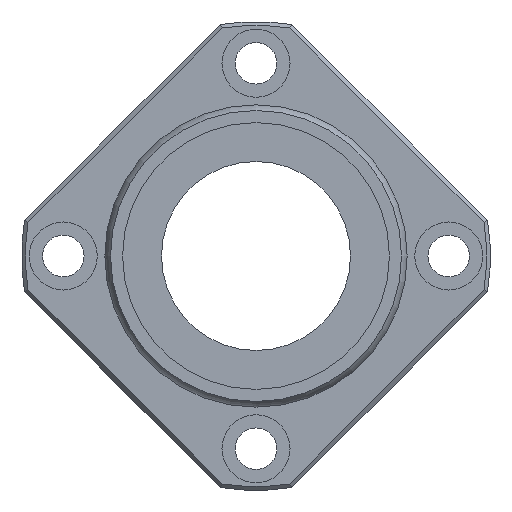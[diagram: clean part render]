
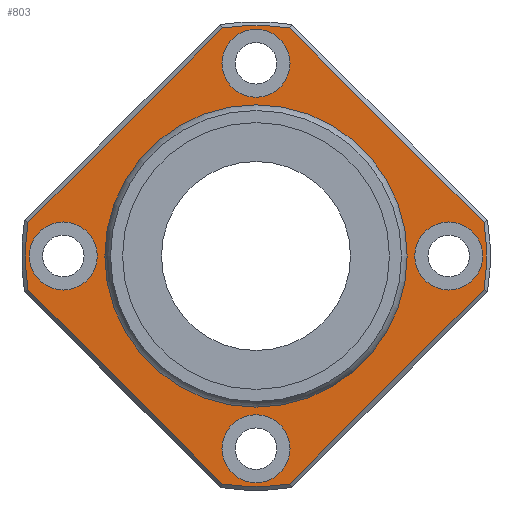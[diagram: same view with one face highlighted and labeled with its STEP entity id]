
A CAD part, left-side view. The second image highlights one B-rep face of the part: STEP entity #803.
In plain terms, the highlighted planar face has unit normal (-1, 0, 0).
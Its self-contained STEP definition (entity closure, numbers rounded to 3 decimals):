
#498=CARTESIAN_POINT('',(57.5,-4.479,-30.169));
#499=VERTEX_POINT('',#498);
#507=CARTESIAN_POINT('',(57.5,4.479,-30.169));
#508=VERTEX_POINT('',#507);
#509=CARTESIAN_POINT('',(57.5,0.0,0.0));
#510=DIRECTION('',(1.0,0.0,0.0));
#511=DIRECTION('',(0.0,0.0,-1.0));
#512=AXIS2_PLACEMENT_3D('',#509,#510,#511);
#513=CIRCLE('',#512,30.5);
#514=EDGE_CURVE('',#499,#508,#513,.T.);
#540=CARTESIAN_POINT('',(57.5,30.169,-4.479));
#541=VERTEX_POINT('',#540);
#542=CARTESIAN_POINT('',(57.5,4.479,-30.169));
#543=DIRECTION('',(0.0,0.707,0.707));
#544=VECTOR('',#543,36.332);
#545=LINE('',#542,#544);
#546=EDGE_CURVE('',#508,#541,#545,.T.);
#573=CARTESIAN_POINT('',(57.5,30.169,4.479));
#574=VERTEX_POINT('',#573);
#575=CARTESIAN_POINT('',(57.5,0.0,0.0));
#576=DIRECTION('',(1.0,0.0,0.0));
#577=DIRECTION('',(0.0,0.0,1.0));
#578=AXIS2_PLACEMENT_3D('',#575,#576,#577);
#579=CIRCLE('',#578,30.5);
#580=EDGE_CURVE('',#541,#574,#579,.T.);
#604=CARTESIAN_POINT('',(57.5,4.479,30.169));
#605=VERTEX_POINT('',#604);
#606=CARTESIAN_POINT('',(57.5,30.169,4.479));
#607=DIRECTION('',(0.0,-0.707,0.707));
#608=VECTOR('',#607,36.332);
#609=LINE('',#606,#608);
#610=EDGE_CURVE('',#574,#605,#609,.T.);
#629=CARTESIAN_POINT('',(57.5,-4.479,30.169));
#630=VERTEX_POINT('',#629);
#631=CARTESIAN_POINT('',(57.5,0.0,0.0));
#632=DIRECTION('',(1.0,0.0,0.0));
#633=DIRECTION('',(0.0,0.0,1.0));
#634=AXIS2_PLACEMENT_3D('',#631,#632,#633);
#635=CIRCLE('',#634,30.5);
#636=EDGE_CURVE('',#605,#630,#635,.T.);
#655=CARTESIAN_POINT('',(57.5,-30.169,4.479));
#656=VERTEX_POINT('',#655);
#657=CARTESIAN_POINT('',(57.5,-4.479,30.169));
#658=DIRECTION('',(0.0,-0.707,-0.707));
#659=VECTOR('',#658,36.332);
#660=LINE('',#657,#659);
#661=EDGE_CURVE('',#630,#656,#660,.T.);
#680=CARTESIAN_POINT('',(57.5,-30.169,-4.479));
#681=VERTEX_POINT('',#680);
#682=CARTESIAN_POINT('',(57.5,0.0,0.0));
#683=DIRECTION('',(1.0,0.0,0.0));
#684=DIRECTION('',(0.0,0.0,1.0));
#685=AXIS2_PLACEMENT_3D('',#682,#683,#684);
#686=CIRCLE('',#685,30.5);
#687=EDGE_CURVE('',#656,#681,#686,.T.);
#706=CARTESIAN_POINT('',(57.5,-30.169,-4.479));
#707=DIRECTION('',(0.0,0.707,-0.707));
#708=VECTOR('',#707,36.332);
#709=LINE('',#706,#708);
#710=EDGE_CURVE('',#681,#499,#709,.T.);
#733=CARTESIAN_POINT('',(57.5,0.0,25.282));
#734=DIRECTION('',(-1.0,0.0,0.0));
#735=DIRECTION('',(0.0,0.0,1.0));
#736=AXIS2_PLACEMENT_3D('',#733,#734,#735);
#737=PLANE('',#736);
#738=ORIENTED_EDGE('',*,*,#514,.F.);
#739=ORIENTED_EDGE('',*,*,#710,.F.);
#740=ORIENTED_EDGE('',*,*,#687,.F.);
#741=ORIENTED_EDGE('',*,*,#661,.F.);
#742=ORIENTED_EDGE('',*,*,#636,.F.);
#743=ORIENTED_EDGE('',*,*,#610,.F.);
#744=ORIENTED_EDGE('',*,*,#580,.F.);
#745=ORIENTED_EDGE('',*,*,#546,.F.);
#746=EDGE_LOOP('',(#738,#739,#740,#741,#742,#743,#744,#745));
#747=FACE_OUTER_BOUND('',#746,.T.);
#748=CARTESIAN_POINT('',(57.5,0.0,19.564));
#749=VERTEX_POINT('',#748);
#750=CARTESIAN_POINT('',(57.5,0.0,0.0));
#751=DIRECTION('',(-1.0,0.0,0.0));
#752=DIRECTION('',(0.0,0.0,1.0));
#753=AXIS2_PLACEMENT_3D('',#750,#751,#752);
#754=CIRCLE('',#753,19.564);
#755=EDGE_CURVE('',#749,#749,#754,.T.);
#756=ORIENTED_EDGE('',*,*,#755,.F.);
#757=EDGE_LOOP('',(#756));
#758=FACE_BOUND('',#757,.T.);
#759=CARTESIAN_POINT('',(57.5,-21.0,0.));
#760=VERTEX_POINT('',#759);
#761=CARTESIAN_POINT('',(57.5,-25.5,0.));
#762=DIRECTION('',(1.0,0.0,0.0));
#763=DIRECTION('',(0.0,1.0,0.0));
#764=AXIS2_PLACEMENT_3D('',#761,#762,#763);
#765=CIRCLE('',#764,4.5);
#766=EDGE_CURVE('',#760,#760,#765,.T.);
#767=ORIENTED_EDGE('',*,*,#766,.T.);
#768=EDGE_LOOP('',(#767));
#769=FACE_BOUND('',#768,.T.);
#770=CARTESIAN_POINT('',(57.5,30.,0.));
#771=VERTEX_POINT('',#770);
#772=CARTESIAN_POINT('',(57.5,25.5,0.));
#773=DIRECTION('',(1.0,0.0,0.0));
#774=DIRECTION('',(0.0,1.0,0.0));
#775=AXIS2_PLACEMENT_3D('',#772,#773,#774);
#776=CIRCLE('',#775,4.5);
#777=EDGE_CURVE('',#771,#771,#776,.T.);
#778=ORIENTED_EDGE('',*,*,#777,.T.);
#779=EDGE_LOOP('',(#778));
#780=FACE_BOUND('',#779,.T.);
#781=CARTESIAN_POINT('',(57.5,4.5,25.5));
#782=VERTEX_POINT('',#781);
#783=CARTESIAN_POINT('',(57.5,0.,25.5));
#784=DIRECTION('',(1.0,0.0,0.0));
#785=DIRECTION('',(0.0,1.0,0.0));
#786=AXIS2_PLACEMENT_3D('',#783,#784,#785);
#787=CIRCLE('',#786,4.5);
#788=EDGE_CURVE('',#782,#782,#787,.T.);
#789=ORIENTED_EDGE('',*,*,#788,.T.);
#790=EDGE_LOOP('',(#789));
#791=FACE_BOUND('',#790,.T.);
#792=CARTESIAN_POINT('',(57.5,4.5,-25.5));
#793=VERTEX_POINT('',#792);
#794=CARTESIAN_POINT('',(57.5,0.,-25.5));
#795=DIRECTION('',(1.0,0.0,0.0));
#796=DIRECTION('',(0.0,1.0,0.0));
#797=AXIS2_PLACEMENT_3D('',#794,#795,#796);
#798=CIRCLE('',#797,4.5);
#799=EDGE_CURVE('',#793,#793,#798,.T.);
#800=ORIENTED_EDGE('',*,*,#799,.T.);
#801=EDGE_LOOP('',(#800));
#802=FACE_BOUND('',#801,.T.);
#803=ADVANCED_FACE('',(#747,#758,#769,#780,#791,#802),#737,.T.);
